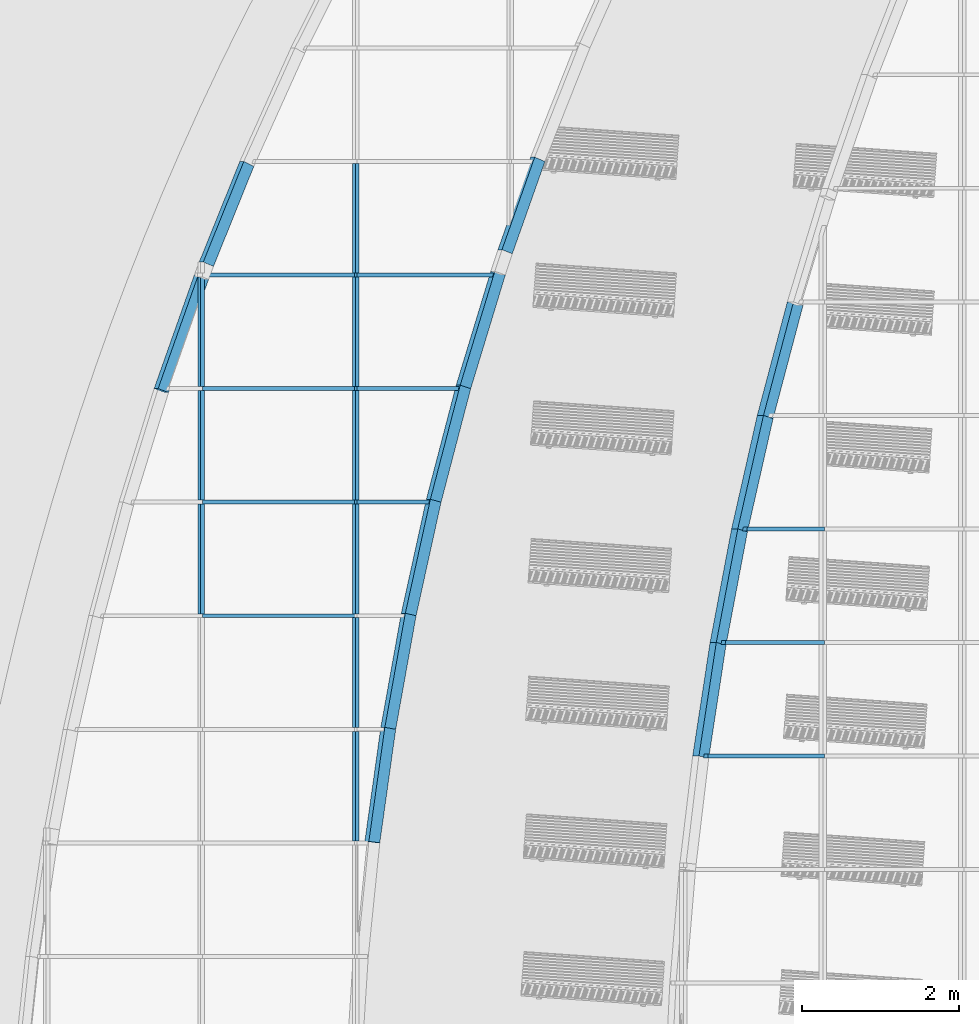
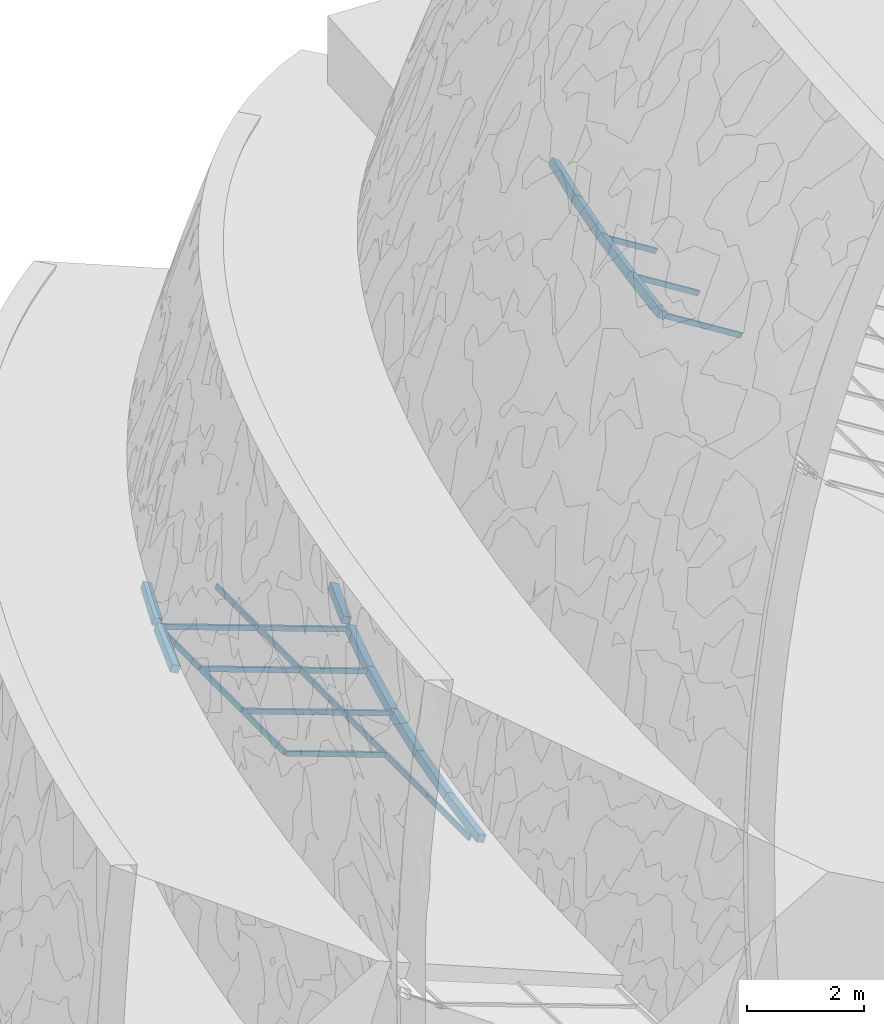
# One storey, part 12 of 82: 31 members, 2 elements without a shape of their own.
"""IFC2X3 building model written with IfcOpenShell, lengths in millimetres."""

import ifcopenshell
import ifcopenshell.guid

model = None  # the IFC model being written
_history = None  # IfcOwnerHistory: only IFC2X3 demands one
_inside = {}  # id of a spatial element -> (the spatial element, [elements in it])
_under = {}  # id of a project, library or spatial element -> (it, [spatial elements below it])
_declared = {}  # id of a project -> (the project, [libraries it declares])
_typed = {}  # id of a type object -> (the type object, [elements of that type])
_made_of = {}  # id of a material, layer set ... -> (it, [elements and type objects made of it])


def new_model(schema):
    """Start an empty IFC model of exactly this schema.

    Asked for "IFC4X3", IfcOpenShell would pick the latest addendum, in which some entities
    have other attributes; the version numbers below select the first issue.
    IFC2X3 requires an IfcOwnerHistory on every rooted entity: one is made here for all.
    """
    global model, _history
    if schema == "IFC4X3":
        model = ifcopenshell.file(schema_version=(4, 3, 0, 0))
    else:
        model = ifcopenshell.file(schema=schema)
    _inside.clear()
    _under.clear()
    _declared.clear()
    _typed.clear()
    _made_of.clear()
    _history = None
    if model.schema == "IFC2X3":
        org = make("IfcOrganization", Name="unknown")
        user = make(
            "IfcPersonAndOrganization",
            ThePerson=make("IfcPerson", FamilyName="unknown"),
            TheOrganization=org,
        )
        app = make(
            "IfcApplication",
            ApplicationDeveloper=org,
            Version="unknown",
            ApplicationFullName="unknown",
            ApplicationIdentifier="unknown",
        )
        _history = make(
            "IfcOwnerHistory",
            OwningUser=user,
            OwningApplication=app,
            ChangeAction="ADDED",
            CreationDate=0,
        )
    return model


def make(cls, **values):
    """One entity of the class cls with the attributes given. An attribute that is None is left unset."""
    return model.create_entity(
        cls, **{name: value for name, value in values.items() if value is not None}
    )


def entity(cls, *values):
    """Any entity or typed value of the class cls, its attributes in the order of the schema. None: left unset."""
    e = model.create_entity(cls)
    for i, value in enumerate(values):
        if value is not None:
            e[i] = value
    return e


def rooted(cls, **values):
    """An entity with a GlobalId (a new one), such as an element, a storey or a relation."""
    return make(cls, GlobalId=ifcopenshell.guid.new(), OwnerHistory=_history, **values)


def si_unit(unit_type, name, prefix=None):
    """IfcSIUnit, for example si_unit("LENGTHUNIT", "METRE", prefix="MILLI")."""
    return make("IfcSIUnit", UnitType=unit_type, Prefix=prefix, Name=name)


def converted_unit(unit_type, name, factor, base, dimensions=None, offset=None):
    """IfcConversionBasedUnit, such as the inch: factor (a typed value) times the base unit."""
    return make(
        "IfcConversionBasedUnit"
        if offset is None
        else "IfcConversionBasedUnitWithOffset",
        ConversionOffset=offset,
        Dimensions=None
        if dimensions is None
        else entity("IfcDimensionalExponents", *dimensions),
        UnitType=unit_type,
        Name=name,
        ConversionFactor=make(
            "IfcMeasureWithUnit", ValueComponent=factor, UnitComponent=base
        ),
    )


def derived_unit(unit_type, elements):
    """IfcDerivedUnit: a product of units, each with its exponent."""
    return make(
        "IfcDerivedUnit",
        Elements=[
            make("IfcDerivedUnitElement", Unit=unit, Exponent=power)
            for unit, power in elements
        ],
        UnitType=unit_type,
    )


def assignment(units):
    """IfcUnitAssignment: the units of a project."""
    return None if units is None else make("IfcUnitAssignment", Units=units)


def point(xyz):
    """IfcCartesianPoint."""
    return None if xyz is None else make("IfcCartesianPoint", Coordinates=xyz)


def direction(xyz):
    """IfcDirection."""
    return None if xyz is None else make("IfcDirection", DirectionRatios=xyz)


def frame(location, z_axis=None, x_axis=None):
    """IfcAxis2Placement3D, a coordinate frame: its origin and axes. An axis left out is left unset."""
    return make(
        "IfcAxis2Placement3D",
        Location=point(location),
        Axis=direction(z_axis),
        RefDirection=direction(x_axis),
    )


def frame_2d(location, x_axis=None):
    """IfcAxis2Placement2D, a coordinate frame in the plane: its origin and x axis."""
    return make(
        "IfcAxis2Placement2D", Location=point(location), RefDirection=direction(x_axis)
    )


def origin():
    """The frame at (0, 0, 0) with its axes left unset."""
    return frame((0.0, 0.0, 0.0))


def origin_2d_with_axis():
    """The frame at (0, 0) in the plane with the x axis (1, 0) written out."""
    return frame_2d((0.0, 0.0), x_axis=(1.0, 0.0))


def place(relative_to, where):
    """IfcLocalPlacement: puts the frame where relative to a parent placement (None: the world)."""
    return make(
        "IfcLocalPlacement", PlacementRelTo=relative_to, RelativePlacement=where
    )


def context(
    kind, dimensions, precision=None, world=None, true_north=None, identifier=None
):
    """IfcGeometricRepresentationContext, for example the 3D "Model" context."""
    return make(
        "IfcGeometricRepresentationContext",
        ContextIdentifier=identifier,
        ContextType=kind,
        CoordinateSpaceDimension=dimensions,
        Precision=precision,
        WorldCoordinateSystem=world,
        TrueNorth=true_north,
    )


def subcontext(parent, identifier, kind, view, scale=None):
    """IfcGeometricRepresentationSubContext, for example "Body" below "Model"."""
    return make(
        "IfcGeometricRepresentationSubContext",
        ContextIdentifier=identifier,
        ContextType=kind,
        ParentContext=parent,
        TargetScale=scale,
        TargetView=view,
    )


def project(units=None, contexts=None):
    """IfcProject with its units and contexts."""
    return rooted(
        "IfcProject",
        Name="project",
        RepresentationContexts=contexts,
        UnitsInContext=assignment(units),
    )


def spatial(cls, under=None, at=None, **own):
    """A site, building, storey or space (cls), placed at a placement, below another one or the project."""
    s = rooted(cls, ObjectPlacement=at, **own)
    if under is not None:
        _under.setdefault(under.id(), (under, []))[1].append(s)
    return s


def polyline(points):
    """IfcPolyline through the points."""
    return make("IfcPolyline", Points=[point(p) for p in points])


def profile(cls, at=None, kind="AREA", **sizes):
    """A parametric profile (cls). Its sizes go by their IFC names, for example OverallWidth=200.0."""
    return make(cls, ProfileType=kind, Position=at, **sizes)


def rectangle(**sizes):
    """IfcRectangleProfileDef."""
    return profile("IfcRectangleProfileDef", **sizes)


def extrude(swept, where, along, depth):
    """IfcExtrudedAreaSolid: the profile swept, set in the frame where, extruded along a direction by depth."""
    return make(
        "IfcExtrudedAreaSolid",
        SweptArea=swept,
        Position=where,
        ExtrudedDirection=direction(along),
        Depth=depth,
    )


def clip(a, b, op="DIFFERENCE"):
    """IfcBooleanClippingResult: the solid a cut by the half space b."""
    return make(
        "IfcBooleanClippingResult", Operator=op, FirstOperand=a, SecondOperand=b
    )


def halfspace(plane, agree):
    """IfcHalfSpaceSolid: all space on one side of the plane z = 0 of the frame plane."""
    return make(
        "IfcHalfSpaceSolid",
        BaseSurface=make("IfcPlane", Position=plane),
        AgreementFlag=agree,
    )


def bounded_halfspace(plane, agree, where, boundary):
    """IfcPolygonalBoundedHalfSpace: a half space limited to a polygon's prism."""
    return make(
        "IfcPolygonalBoundedHalfSpace",
        BaseSurface=make("IfcPlane", Position=plane),
        AgreementFlag=agree,
        Position=where,
        PolygonalBoundary=boundary,
    )


def shape(context_of_items, identifier, shape_type, items):
    """IfcShapeRepresentation: the items that make up one representation, for example the "Body"."""
    return make(
        "IfcShapeRepresentation",
        ContextOfItems=context_of_items,
        RepresentationIdentifier=identifier,
        RepresentationType=shape_type,
        Items=items,
    )


def source(mapping_origin, context_of_items, identifier, shape_type, items):
    """IfcRepresentationMap: a shape defined once, which mapped items show again and again."""
    return make(
        "IfcRepresentationMap",
        MappingOrigin=mapping_origin,
        MappedRepresentation=shape(context_of_items, identifier, shape_type, items),
    )


def transform(
    local_origin,
    x_axis=None,
    y_axis=None,
    z_axis=None,
    scale=None,
    scale2=None,
    scale3=None,
    uniform=True,
):
    """IfcCartesianTransformationOperator3D, or its non-uniform kind. x_axis, y_axis, z_axis: its Axis1, 2, 3."""
    if uniform:
        return make(
            "IfcCartesianTransformationOperator3D",
            Axis1=direction(x_axis),
            Axis2=direction(y_axis),
            LocalOrigin=point(local_origin),
            Scale=scale,
            Axis3=direction(z_axis),
        )
    return make(
        "IfcCartesianTransformationOperator3DnonUniform",
        Axis1=direction(x_axis),
        Axis2=direction(y_axis),
        LocalOrigin=point(local_origin),
        Scale=scale,
        Axis3=direction(z_axis),
        Scale2=scale2,
        Scale3=scale3,
    )


def mapped(mapping_source, mapping_target):
    """IfcMappedItem: shows the shape of a source again, moved by a transform."""
    return make(
        "IfcMappedItem", MappingSource=mapping_source, MappingTarget=mapping_target
    )


def material(Name=None, Category=None):
    """IfcMaterial."""
    return make("IfcMaterial", Name=Name, Category=Category)


def made_of(thing, what):
    """Note that an element or type object is made of a material, layer set ...; save() writes the relation."""
    if what is not None:
        _made_of.setdefault(what.id(), (what, []))[1].append(thing)
    return thing


def type_object(cls, material=None, **own):
    """A type object (cls), such as IfcWallType, which elements share."""
    return made_of(rooted(cls, **own), material)


def type_shapes(of_type, sources):
    """Give a type object the sources (RepresentationMaps) that its elements show as mapped items."""
    of_type.RepresentationMaps = sources


def element(
    cls,
    number,
    at=None,
    inside=None,
    cuts=None,
    type_object=None,
    material=None,
    context=None,
    identifier="Body",
    shape_type=None,
    held_by="IfcProductDefinitionShape",
    body=None,
    shapes=None,
    **own,
):
    """One element of the class cls, such as IfcWall. Its Tag is "e" and its number.

    at: its placement. inside: the storey or other place that contains it. cuts: it is an
    opening in that element (IfcRelVoidsElement). A single representation is given by context,
    identifier, shape_type and body (its items); several are given by shapes. held_by: the class
    of the entity that holds the representations. save() writes the other relations.
    """
    e = rooted(cls, Tag="e%d" % number, ObjectPlacement=at, **own)
    if body is not None:
        shapes = [shape(context, identifier, shape_type, body)]
    if shapes is not None:
        e.Representation = make(held_by, Representations=shapes)
    if inside is not None:
        _inside.setdefault(inside.id(), (inside, []))[1].append(e)
    if cuts is not None:
        rooted(
            "IfcRelVoidsElement", RelatingBuildingElement=cuts, RelatedOpeningElement=e
        )
    if type_object is not None:
        _typed.setdefault(type_object.id(), (type_object, []))[1].append(e)
    return made_of(e, material)


def aggregate(whole, parts):
    """IfcRelAggregates: a whole, such as a stair, and the parts it consists of."""
    return rooted("IfcRelAggregates", RelatingObject=whole, RelatedObjects=parts)


def save(model, path):
    """Write the relations noted so far, then the file.

    IfcRelAggregates (storeys below a building ...), IfcRelContainedInSpatialStructure (elements
    in a storey), IfcRelDefinesByType, IfcRelAssociatesMaterial and IfcRelDeclares: one each for
    every whole, place, type object, material and project.
    """
    for whole, parts in _under.values():
        aggregate(whole, parts)
    for where, things in _inside.values():
        rooted(
            "IfcRelContainedInSpatialStructure",
            RelatedElements=things,
            RelatingStructure=where,
        )
    for kind, things in _typed.values():
        rooted("IfcRelDefinesByType", RelatedObjects=things, RelatingType=kind)
    for what, things in _made_of.values():
        rooted("IfcRelAssociatesMaterial", RelatedObjects=things, RelatingMaterial=what)
    for by, libraries in _declared.values():
        rooted("IfcRelDeclares", RelatingContext=by, RelatedDefinitions=libraries)
    model.write(path)


model = new_model("IFC2X3")

# Units and contexts
model_context = context("Model", 3, precision=0.01, world=origin(), true_north=direction((6.12303176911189e-17, 1.0)))
body_context = subcontext(model_context, "Body", "Model", "MODEL_VIEW")
ifc_project = project(units=[si_unit("LENGTHUNIT", "METRE", prefix="MILLI"), si_unit("AREAUNIT", "SQUARE_METRE"), si_unit("VOLUMEUNIT", "CUBIC_METRE"), converted_unit("PLANEANGLEUNIT", "DEGREE", entity("IfcRatioMeasure", 0.0174532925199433), si_unit("PLANEANGLEUNIT", "RADIAN"), dimensions=[0, 0, 0, 0, 0, 0, 0]), si_unit("MASSUNIT", "GRAM", prefix="KILO"), derived_unit("MASSDENSITYUNIT", [(si_unit("MASSUNIT", "GRAM", prefix="KILO"), 1), (si_unit("LENGTHUNIT", "METRE"), -3)]), si_unit("TIMEUNIT", "SECOND"), si_unit("FREQUENCYUNIT", "HERTZ"), si_unit("THERMODYNAMICTEMPERATUREUNIT", "DEGREE_CELSIUS"), derived_unit("THERMALTRANSMITTANCEUNIT", [(si_unit("MASSUNIT", "GRAM", prefix="KILO"), 1), (si_unit("THERMODYNAMICTEMPERATUREUNIT", "KELVIN"), -1), (si_unit("TIMEUNIT", "SECOND"), -3)]), derived_unit("VOLUMETRICFLOWRATEUNIT", [(si_unit("LENGTHUNIT", "METRE"), 3), (si_unit("TIMEUNIT", "SECOND"), -1)]), si_unit("ELECTRICCURRENTUNIT", "AMPERE"), si_unit("ELECTRICVOLTAGEUNIT", "VOLT"), si_unit("POWERUNIT", "WATT"), si_unit("FORCEUNIT", "NEWTON", prefix="KILO"), si_unit("ILLUMINANCEUNIT", "LUX"), si_unit("LUMINOUSFLUXUNIT", "LUMEN"), si_unit("LUMINOUSINTENSITYUNIT", "CANDELA"), derived_unit("USERDEFINED", [(si_unit("MASSUNIT", "GRAM", prefix="KILO"), -1), (si_unit("LENGTHUNIT", "METRE"), -2), (si_unit("TIMEUNIT", "SECOND"), 3), (si_unit("LUMINOUSFLUXUNIT", "LUMEN"), 1)]), derived_unit("LINEARVELOCITYUNIT", [(si_unit("LENGTHUNIT", "METRE"), 1), (si_unit("TIMEUNIT", "SECOND"), -1)]), si_unit("PRESSUREUNIT", "PASCAL"), derived_unit("USERDEFINED", [(si_unit("LENGTHUNIT", "METRE"), -2), (si_unit("MASSUNIT", "GRAM", prefix="KILO"), 1), (si_unit("TIMEUNIT", "SECOND"), -2)])], contexts=[model_context])

# Site, building, storey
site_placement = place(None, origin())
site = spatial("IfcSite", under=ifc_project, at=site_placement, Name="表面", CompositionType="ELEMENT")
building_placement = place(site_placement, origin())
building = spatial("IfcBuilding", under=site, at=building_placement, CompositionType="ELEMENT")
storey_placement = place(building_placement, origin())
storey = spatial("IfcBuildingStorey", under=building, at=storey_placement, Name="1F", CompositionType="ELEMENT", Elevation=0.0)

# Curtain wall, members
curtain_wall_type = type_object("IfcCurtainWallType", Name="幕墙系统:1450 x 2100mm", PredefinedType="NOTDEFINED")
curtain_wall_1_placement = place(storey_placement, origin())
curtain_wall_1 = element("IfcCurtainWall", 1, at=curtain_wall_1_placement, inside=storey, type_object=curtain_wall_type, Name="幕墙系统:1450 x 2100mm", ObjectType="幕墙系统:1450 x 2100mm")
ifc_material_1 = material(Name="金属 - 铝")
member_type_1 = type_object("IfcMemberType", Name="50 x 100mm", PredefinedType="MEMBER")
shared_shape_1 = source(origin(), body_context, "Body", "SweptSolid", [
    extrude(rectangle(XDim=100.0, YDim=50.0, at=origin_2d_with_axis()), frame((0.0, 0.0, -1400.0), z_axis=(0.0, 0.0, 1.0), x_axis=(0.0, -1.0, 0.0)), (0.0, 0.0, 1.0), 1400.0),
])
type_shapes(member_type_1, [shared_shape_1])
placement = place(building_placement, frame((0.0, 0.0, 9000.0)))
member_1_placement = place(placement, frame((-34783.270916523, -4371.8767198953, 980.343533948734), z_axis=(0.0, 1.0, 0.0), x_axis=(-0.93969262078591, 0.0, 0.342020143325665)))
member_1 = element("IfcMember", 2, at=member_1_placement, type_object=member_type_1, material=ifc_material_1, Name="矩形竖梃:50 x 100mm", ObjectType="50 x 100mm", context=body_context, shape_type="MappedRepresentation", body=[
    mapped(shared_shape_1, transform((0.0, 0.0, 0.0), scale=1.0)),
])
member_2_placement = place(placement, frame((-34783.270916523, -5821.87671989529, 980.343533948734), z_axis=(0.0, 1.0, 0.0), x_axis=(-0.93969262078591, 0.0, 0.342020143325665)))
member_2 = element("IfcMember", 3, at=member_2_placement, type_object=member_type_1, material=ifc_material_1, Name="矩形竖梃:50 x 100mm", ObjectType="50 x 100mm", context=body_context, shape_type="MappedRepresentation", body=[
    mapped(shared_shape_1, transform((0.0, 0.0, 0.0), scale=1.0)),
])
member_3_placement = place(placement, frame((-34783.270916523, -7271.87671989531, 980.343533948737), z_axis=(0.0, 1.0, 0.0), x_axis=(-0.93969262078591, 0.0, 0.342020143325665)))
member_3 = element("IfcMember", 4, at=member_3_placement, type_object=member_type_1, material=ifc_material_1, Name="矩形竖梃:50 x 100mm", ObjectType="50 x 100mm", context=body_context, shape_type="MappedRepresentation", body=[
    mapped(shared_shape_1, transform((0.0, 0.0, 0.0), scale=1.0)),
])
member_4_placement = place(placement, frame((-34783.270916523, -8721.8767198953, 980.343533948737), z_axis=(0.0, 1.0, 0.0), x_axis=(-0.93969262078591, 0.0, 0.342020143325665)))
member_4 = element("IfcMember", 5, at=member_4_placement, type_object=member_type_1, material=ifc_material_1, Name="矩形竖梃:50 x 100mm", ObjectType="50 x 100mm", context=body_context, shape_type="MappedRepresentation", body=[
    mapped(shared_shape_1, transform((0.0, 0.0, 0.0), scale=1.0)),
])
member_5_placement = place(placement, frame((-34783.270916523, -10171.8767198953, 980.343533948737), z_axis=(0.0, 1.0, 0.0), x_axis=(-0.93969262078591, 0.0, 0.342020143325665)))
member_5 = element("IfcMember", 6, at=member_5_placement, type_object=member_type_1, material=ifc_material_1, Name="矩形竖梃:50 x 100mm", ObjectType="50 x 100mm", context=body_context, shape_type="MappedRepresentation", body=[
    mapped(shared_shape_1, transform((0.0, 0.0, 0.0), scale=1.0)),
])
member_6_placement = place(placement, frame((-34783.270916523, -11621.8767198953, 980.343533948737), z_axis=(0.0, 1.0, 0.0), x_axis=(-0.93969262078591, 0.0, 0.342020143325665)))
member_6 = element("IfcMember", 7, at=member_6_placement, type_object=member_type_1, material=ifc_material_1, Name="矩形竖梃:50 x 100mm", ObjectType="50 x 100mm", context=body_context, shape_type="MappedRepresentation", body=[
    mapped(shared_shape_1, transform((0.0, 0.0, 0.0), scale=1.0)),
])
member_7_placement = place(placement, frame((-36756.6254201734, -5821.87671989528, 1698.58583493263), z_axis=(0.0, 1.0, 0.0), x_axis=(-0.93969262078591, 0.0, 0.342020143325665)))
member_7 = element("IfcMember", 8, at=member_7_placement, type_object=member_type_1, material=ifc_material_1, Name="矩形竖梃:50 x 100mm", ObjectType="50 x 100mm", context=body_context, shape_type="MappedRepresentation", body=[
    mapped(shared_shape_1, transform((0.0, 0.0, 0.0), scale=1.0)),
])
member_8_placement = place(placement, frame((-36756.6254201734, -7271.87671989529, 1698.58583493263), z_axis=(0.0, 1.0, 0.0), x_axis=(-0.93969262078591, 0.0, 0.342020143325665)))
member_8 = element("IfcMember", 9, at=member_8_placement, type_object=member_type_1, material=ifc_material_1, Name="矩形竖梃:50 x 100mm", ObjectType="50 x 100mm", context=body_context, shape_type="MappedRepresentation", body=[
    mapped(shared_shape_1, transform((0.0, 0.0, 0.0), scale=1.0)),
])
member_9_placement = place(placement, frame((-36756.6254201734, -8721.87671989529, 1698.58583493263), z_axis=(0.0, 1.0, 0.0), x_axis=(-0.93969262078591, 0.0, 0.342020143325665)))
member_9 = element("IfcMember", 10, at=member_9_placement, type_object=member_type_1, material=ifc_material_1, Name="矩形竖梃:50 x 100mm", ObjectType="50 x 100mm", context=body_context, shape_type="MappedRepresentation", body=[
    mapped(shared_shape_1, transform((0.0, 0.0, 0.0), scale=1.0)),
])
member_type_2 = type_object("IfcMemberType", Name="50 x 100mm", PredefinedType="MEMBER")
shared_shape_2 = source(origin(), body_context, "Body", "SweptSolid", [
    extrude(rectangle(XDim=100.0, YDim=50.0, at=origin_2d_with_axis()), frame((0.0, 0.0, -2100.0), z_axis=(0.0, 0.0, 1.0), x_axis=(0.0, -1.0, 0.0)), (0.0, 0.0, 1.0), 2100.0),
])
type_shapes(member_type_2, [shared_shape_2])
member_10_placement = place(placement, frame((-36756.6254201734, -5796.87671989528, 1698.58583493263), z_axis=(-0.939692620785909, 0.0, 0.342020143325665), x_axis=(0.0, -1.0, 0.0)))
member_10 = element("IfcMember", 11, at=member_10_placement, type_object=member_type_2, material=ifc_material_1, Name="矩形竖梃:50 x 100mm", ObjectType="50 x 100mm", context=body_context, shape_type="MappedRepresentation", body=[
    mapped(shared_shape_2, transform((0.0, 0.0, 0.0), scale=1.0)),
])
member_11_placement = place(placement, frame((-36756.6254201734, -7246.8767198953, 1698.58583493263), z_axis=(-0.939692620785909, 0.0, 0.342020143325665), x_axis=(0.0, -1.0, 0.0)))
member_11 = element("IfcMember", 12, at=member_11_placement, type_object=member_type_2, material=ifc_material_1, Name="矩形竖梃:50 x 100mm", ObjectType="50 x 100mm", context=body_context, shape_type="MappedRepresentation", body=[
    mapped(shared_shape_2, transform((0.0, 0.0, 0.0), scale=1.0)),
])
member_12_placement = place(placement, frame((-36756.6254201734, -8696.8767198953, 1698.58583493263), z_axis=(-0.93969262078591, 0.0, 0.342020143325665), x_axis=(0.0, -1.0, 0.0)))
member_12 = element("IfcMember", 13, at=member_12_placement, type_object=member_type_2, material=ifc_material_1, Name="矩形竖梃:50 x 100mm", ObjectType="50 x 100mm", context=body_context, shape_type="MappedRepresentation", body=[
    mapped(shared_shape_2, transform((0.0, 0.0, 0.0), scale=1.0)),
])
member_13_placement = place(placement, frame((-36756.6254201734, -10146.8767198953, 1698.58583493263), z_axis=(-0.939692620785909, 0.0, 0.342020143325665), x_axis=(0.0, -1.0, 0.0)))
member_13 = element("IfcMember", 14, at=member_13_placement, type_object=member_type_2, material=ifc_material_1, Name="矩形竖梃:50 x 100mm", ObjectType="50 x 100mm", context=body_context, shape_type="MappedRepresentation", body=[
    mapped(shared_shape_2, transform((0.0, 0.0, 0.0), scale=1.0)),
])

curtain_wall_2_placement = place(storey_placement, origin())
curtain_wall_2 = element("IfcCurtainWall", 15, at=curtain_wall_2_placement, inside=storey, type_object=curtain_wall_type, Name="幕墙系统:1450 x 2100mm", ObjectType="幕墙系统:1450 x 2100mm")
ifc_material_2 = material(Name="木质 - 木材")
member_type_3 = type_object("IfcMemberType", Name="200 x 150mm", PredefinedType="MEMBER")
shared_shape_3 = source(origin(), body_context, "Body", "Clipping", [
    clip(clip(extrude(rectangle(XDim=150.0, YDim=150.0, at=frame_2d((0.0, -3.5527136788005e-14), x_axis=(1.0, 0.0))), frame((-75.0, 0.0, -1518.93523672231), z_axis=(0.0, 0.0, 1.0), x_axis=(0.0, -1.0, 0.0)), (0.0, 0.0, 1.0), 1518.93523672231), halfspace(frame((0.0, -304.799999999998, -1518.93523672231), z_axis=(-0.0208260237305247, 0.0, -0.999783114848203), x_axis=(-0.999783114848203, 0.0, 0.0208260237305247)), False)), halfspace(frame((0.0, -304.8, 0.0), z_axis=(-0.0203865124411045, 0.0, 0.999792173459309), x_axis=(-0.999792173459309, 0.0, -0.0203865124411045)), False)),
])
type_shapes(member_type_3, [shared_shape_3])
member_14_placement = place(placement, frame((-29233.6885868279, -6138.90315351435, 8963.43297238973), z_axis=(0.252581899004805, 0.954616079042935, -0.157830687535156), x_axis=(-0.809560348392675, 0.29783912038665, 0.505869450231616)))
member_14 = element("IfcMember", 16, at=member_14_placement, type_object=member_type_3, material=ifc_material_2, Name="矩形竖梃:200 x 150mm", ObjectType="200 x 150mm", context=body_context, shape_type="MappedRepresentation", body=[
    mapped(shared_shape_3, transform((0.0, 0.0, 0.0), scale=1.0)),
])
member_type_4 = type_object("IfcMemberType", Name="200 x 150mm", PredefinedType="MEMBER")
shared_shape_4 = source(origin(), body_context, "Body", "Clipping", [
    clip(clip(extrude(rectangle(XDim=150.0, YDim=150.0, at=frame_2d((7.105427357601e-15, 1.4210854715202e-14), x_axis=(1.0, 0.0))), frame((-75.0, 0.0, -1500.73859228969), z_axis=(0.0, 0.0, 1.0), x_axis=(0.0, -1.0, 0.0)), (0.0, 0.0, 1.0), 1500.73859228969), halfspace(frame((0.0, -304.800000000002, -1500.73859228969), z_axis=(-0.0205966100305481, 0.0, -0.999787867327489), x_axis=(-0.999787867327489, 0.0, 0.0205966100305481)), False)), halfspace(frame((0.0, -304.8, 0.0), z_axis=(-0.0208260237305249, 0.0, 0.999783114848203), x_axis=(-0.999783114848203, 0.0, -0.0208260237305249)), False)),
])
type_shapes(member_type_4, [shared_shape_4])
member_15_placement = place(placement, frame((-29617.3441333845, -7588.90315351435, 9203.16756512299), z_axis=(0.218650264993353, 0.966190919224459, -0.136627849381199), x_axis=(-0.819376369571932, 0.257827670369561, 0.512003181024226)))
member_15 = element("IfcMember", 17, at=member_15_placement, type_object=member_type_4, material=ifc_material_2, Name="矩形竖梃:200 x 150mm", ObjectType="200 x 150mm", context=body_context, shape_type="MappedRepresentation", body=[
    mapped(shared_shape_4, transform((0.0, 0.0, 0.0), scale=1.0)),
])
member_type_5 = type_object("IfcMemberType", Name="200 x 150mm", PredefinedType="MEMBER")
shared_shape_5 = source(origin(), body_context, "Body", "Clipping", [
    clip(clip(extrude(rectangle(XDim=150.0, YDim=150.0, at=frame_2d((2.8421709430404e-14, -3.5527136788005e-14), x_axis=(1.0, 0.0))), frame((-75.0, 0.0, -1485.67147350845), z_axis=(0.0, 0.0, 1.0), x_axis=(0.0, -1.0, 0.0)), (0.0, 0.0, 1.0), 1485.67147350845), halfspace(frame((0.0, -304.8, -1485.67147350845), z_axis=(-0.020408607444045, 0.0, -0.999791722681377), x_axis=(-0.999791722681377, 0.0, 0.020408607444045)), False)), halfspace(frame((0.0, -304.8, 0.0), z_axis=(-0.0205966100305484, 0.0, 0.999787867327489), x_axis=(-0.999787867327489, 0.0, -0.0205966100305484)), False)),
])
type_shapes(member_type_5, [shared_shape_5])
member_16_placement = place(placement, frame((-29945.4810242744, -9038.90315351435, 9408.2102514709), z_axis=(0.184719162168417, 0.975989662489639, -0.11542534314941), x_axis=(-0.827686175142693, 0.217816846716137, 0.517195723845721)))
member_16 = element("IfcMember", 18, at=member_16_placement, type_object=member_type_5, material=ifc_material_2, Name="矩形竖梃:200 x 150mm", ObjectType="200 x 150mm", context=body_context, shape_type="MappedRepresentation", body=[
    mapped(shared_shape_5, transform((0.0, 0.0, 0.0), scale=1.0)),
])
member_type_6 = type_object("IfcMemberType", Name="200 x 150mm", PredefinedType="MEMBER")
shared_shape_6 = source(origin(), body_context, "Body", "Clipping", [
    clip(clip(extrude(rectangle(XDim=150.0, YDim=150.0, at=frame_2d((0.0, -6.3948846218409e-14), x_axis=(1.0, 0.0))), frame((-75.0, 0.0, -1473.47920382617), z_axis=(0.0, 0.0, 1.0), x_axis=(0.0, -1.0, 0.0)), (0.0, 0.0, 1.0), 1473.47920382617), halfspace(frame((0.0, -304.8, -1473.47920382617), z_axis=(-0.0196664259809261, 0.0, -0.999806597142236), x_axis=(-0.999806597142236, 0.0, 0.0196664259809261)), False)), halfspace(frame((0.0, -304.8, 0.0), z_axis=(-0.0204086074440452, 0.0, 0.999791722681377), x_axis=(-0.999791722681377, 0.0, -0.0204086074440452)), False)),
])
type_shapes(member_type_6, [shared_shape_6])
member_17_placement = place(placement, frame((-30219.9130141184, -10488.9031535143, 9579.6943911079), z_axis=(0.150788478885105, 0.984065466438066, -0.094223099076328), x_axis=(-0.834534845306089, 0.177806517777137, 0.521475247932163)))
member_17 = element("IfcMember", 19, at=member_17_placement, type_object=member_type_6, material=ifc_material_2, Name="矩形竖梃:200 x 150mm", ObjectType="200 x 150mm", context=body_context, shape_type="MappedRepresentation", body=[
    mapped(shared_shape_6, transform((0.0, 0.0, 0.0), scale=1.0)),
])
member_type_7 = type_object("IfcMemberType", Name="50 x 100mm", PredefinedType="MEMBER")
shared_shape_7 = source(origin(), body_context, "Body", "Clipping", [
    clip(extrude(rectangle(XDim=100.0, YDim=50.0, at=origin_2d_with_axis()), frame((0.0, 0.0, -1322.89242404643), z_axis=(0.0, 0.0, 1.0), x_axis=(0.0, -1.0, 0.0)), (0.0, 0.0, 1.0), 1174.31484441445), halfspace(frame((-1411.32584944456, 75.0, -531.860572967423), z_axis=(-0.257827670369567, 0.0, 0.966190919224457), x_axis=(0.966190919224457, 0.0, 0.257827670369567)), False)),
])
type_shapes(member_type_7, [shared_shape_7])
member_18_placement = place(placement, frame((-29945.4810242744, -9038.90315351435, 9408.2102514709), z_axis=(-0.848048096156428, 0.0, 0.529919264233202), x_axis=(0.0, -1.0, 0.0)))
member_18 = element("IfcMember", 20, at=member_18_placement, type_object=member_type_7, material=ifc_material_1, Name="矩形竖梃:50 x 100mm", ObjectType="50 x 100mm", context=body_context, shape_type="MappedRepresentation", body=[
    mapped(shared_shape_7, transform((0.0, 0.0, 0.0), scale=1.0)),
])
member_type_8 = type_object("IfcMemberType", Name="50 x 100mm", PredefinedType="MEMBER")
shared_shape_8 = source(origin(), body_context, "Body", "Clipping", [
    clip(extrude(rectangle(XDim=100.0, YDim=50.0, at=origin_2d_with_axis()), frame((0.0, 0.0, -1646.49669966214), z_axis=(0.0, 0.0, 1.0), x_axis=(0.0, -1.0, 0.0)), (0.0, 0.0, 1.0), 1498.38593129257), halfspace(frame((-1417.32747299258, 75.0, -470.002724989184), z_axis=(-0.217816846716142, 0.0, 0.975989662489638), x_axis=(0.975989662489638, 0.0, 0.217816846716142)), False)),
])
type_shapes(member_type_8, [shared_shape_8])
member_19_placement = place(placement, frame((-30219.9130141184, -10488.9031535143, 9579.6943911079), z_axis=(-0.848048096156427, 0.0, 0.529919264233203), x_axis=(0.0, -1.0, 0.0)))
member_19 = element("IfcMember", 21, at=member_19_placement, type_object=member_type_8, material=ifc_material_1, Name="矩形竖梃:50 x 100mm", ObjectType="50 x 100mm", context=body_context, shape_type="MappedRepresentation", body=[
    mapped(shared_shape_8, transform((0.0, 0.0, 0.0), scale=1.0)),
])
member_type_9 = type_object("IfcMemberType", Name="50 x 100mm", PredefinedType="MEMBER")
shared_shape_9 = source(origin(), body_context, "Body", "Clipping", [
    clip(clip(extrude(rectangle(XDim=100.0, YDim=50.0, at=origin_2d_with_axis()), frame((0.0, 0.0, -1908.4909059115), z_axis=(0.0, 0.0, 1.0), x_axis=(0.0, -1.0, 0.0)), (0.0, 0.0, 1.0), 1760.52942676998), bounded_halfspace(frame((-1423.32902233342, 75.0, -409.604026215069), z_axis=(-0.177806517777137, 0.0, 0.984065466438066), x_axis=(0.984065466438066, 0.0, 0.177806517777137)), False, frame((0.0, 0.0, -1908.4909059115), z_axis=(0.0, 0.0, 1.0), x_axis=(0.0, -1.0, 0.0)), polyline([(-50.0, 23.767458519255), (-50.0, -25.0), (50.0, -25.0), (50.0, 23.7674585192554), (-50.0, 23.767458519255)]))), bounded_halfspace(frame((23.7674585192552, 75.0, -148.134444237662), z_axis=(-0.13897036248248, 0.0, 0.990296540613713), x_axis=(0.990296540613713, 0.0, 0.13897036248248)), False, frame((0.0, 0.0, -1908.4909059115), z_axis=(0.0, 0.0, 1.0), x_axis=(0.0, -1.0, 0.0)), polyline([(-50.0, 25.0), (-50.0, 23.7674585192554), (50.0, 23.7674585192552), (50.0, 25.0), (-50.0, 25.0)]))),
])
type_shapes(member_type_9, [shared_shape_9])
member_20_placement = place(placement, frame((-30442.0967019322, -11938.9031535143, 9718.53016811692), z_axis=(-0.848048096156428, 0.0, 0.529919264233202), x_axis=(0.0, -1.0, 0.0)))
member_20 = element("IfcMember", 22, at=member_20_placement, type_object=member_type_9, material=ifc_material_1, Name="矩形竖梃:50 x 100mm", ObjectType="50 x 100mm", context=body_context, shape_type="MappedRepresentation", body=[
    mapped(shared_shape_9, transform((0.0, 0.0, 0.0), scale=1.0)),
])
aggregate(curtain_wall_2, [member_14, member_15, member_16, member_17, member_18, member_19, member_20])

# Member
member_type_10 = type_object("IfcMemberType", Name="200 x 150mm", PredefinedType="MEMBER")
shared_shape_10 = source(origin(), body_context, "Body", "Clipping", [
    clip(clip(extrude(rectangle(XDim=150.0, YDim=150.0, at=frame_2d((0.0, 4.9737991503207e-14), x_axis=(1.0, 0.0))), frame((-75.0, 0.0, -1525.98448813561), z_axis=(0.0, 0.0, 1.0), x_axis=(0.0, -1.0, 0.0)), (0.0, 0.0, 1.0), 1529.1264921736), halfspace(frame((0.0, 304.800000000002, -1524.10495337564), z_axis=(0.0125292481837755, 0.0, -0.999921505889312), x_axis=(0.999921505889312, 0.0, 0.0125292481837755)), False)), halfspace(frame((0.0, 304.800000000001, 0.0), z_axis=(0.0209420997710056, 0.0, 0.999780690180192), x_axis=(0.999780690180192, 0.0, -0.0209420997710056)), False)),
])
type_shapes(member_type_10, [shared_shape_10])
member_21_placement = place(placement, frame((-33340.883278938, -7246.8767198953, 455.357367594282), z_axis=(-0.289449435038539, -0.951378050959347, 0.105350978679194), x_axis=(0.89400293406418, -0.308025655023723, -0.325390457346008)))
member_21 = element("IfcMember", 23, at=member_21_placement, type_object=member_type_10, material=ifc_material_2, Name="矩形竖梃:200 x 150mm", ObjectType="200 x 150mm", context=body_context, shape_type="MappedRepresentation", body=[
    mapped(shared_shape_10, transform((0.0, 0.0, 0.0), scale=1.0)),
])

member_type_11 = type_object("IfcMemberType", Name="200 x 150mm", PredefinedType="MEMBER")
shared_shape_11 = source(origin(), body_context, "Body", "Clipping", [
    clip(clip(extrude(rectangle(XDim=150.0, YDim=150.0, at=frame_2d((-1.4210854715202e-14, 4.9737991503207e-14), x_axis=(1.0, 0.0))), frame((-75.0, 0.0, -1508.16233428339), z_axis=(0.0, 0.0, 1.0), x_axis=(0.0, -1.0, 0.0)), (0.0, 0.0, 1.0), 1511.26806117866), halfspace(frame((0.0, 304.800000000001, -1505.0203302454), z_axis=(0.0209420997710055, 0.0, -0.999780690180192), x_axis=(0.999780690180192, 0.0, 0.0209420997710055)), False)), halfspace(frame((0.0, 304.800000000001, 0.0), z_axis=(0.0207004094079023, 0.0, 0.999785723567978), x_axis=(0.999785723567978, 0.0, -0.0207004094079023)), False)),
])
type_shapes(member_type_11, [shared_shape_11])
member_22_placement = place(placement, frame((-33719.7859348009, -8696.8767198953, 593.266656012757), z_axis=(-0.251759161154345, -0.963442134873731, 0.0916328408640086), x_axis=(0.905339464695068, -0.267916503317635, -0.329516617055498)))
member_22 = element("IfcMember", 24, at=member_22_placement, type_object=member_type_11, material=ifc_material_2, Name="矩形竖梃:200 x 150mm", ObjectType="200 x 150mm", context=body_context, shape_type="MappedRepresentation", body=[
    mapped(shared_shape_11, transform((0.0, 0.0, 0.0), scale=1.0)),
])

member_type_12 = type_object("IfcMemberType", Name="200 x 150mm", PredefinedType="MEMBER")
shared_shape_12 = source(origin(), body_context, "Body", "Clipping", [
    clip(clip(extrude(rectangle(XDim=150.0, YDim=150.0, at=origin_2d_with_axis()), frame((-75.0, 0.0, -1492.26153393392), z_axis=(0.0, 0.0, 1.0), x_axis=(0.0, -1.0, 0.0)), (0.0, 0.0, 1.0), 1495.33740469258), halfspace(frame((0.0, 304.800000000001, -1489.15580703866), z_axis=(0.020700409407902, 0.0, -0.999785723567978), x_axis=(0.999785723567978, 0.0, 0.020700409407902)), False)), halfspace(frame((0.0, 304.800000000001, 0.0), z_axis=(0.0205014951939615, 0.0, 0.999789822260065), x_axis=(0.999789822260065, 0.0, -0.0205014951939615)), False)),
])
type_shapes(member_type_12, [shared_shape_12])
member_23_placement = place(placement, frame((-34038.5689769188, -10146.8767198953, 709.294194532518), z_axis=(-0.214069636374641, -0.97370603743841, 0.0779149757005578), x_axis=(0.914984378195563, -0.227808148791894, -0.333027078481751)))
member_23 = element("IfcMember", 25, at=member_23_placement, type_object=member_type_12, material=ifc_material_2, Name="矩形竖梃:200 x 150mm", ObjectType="200 x 150mm", context=body_context, shape_type="MappedRepresentation", body=[
    mapped(shared_shape_12, transform((0.0, 0.0, 0.0), scale=1.0)),
])

member_type_13 = type_object("IfcMemberType", Name="200 x 150mm", PredefinedType="MEMBER")
shared_shape_13 = source(origin(), body_context, "Body", "Clipping", [
    clip(clip(extrude(rectangle(XDim=150.0, YDim=150.0, at=origin_2d_with_axis()), frame((-75.0, 0.0, -1479.31398036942), z_axis=(0.0, 0.0, 1.0), x_axis=(0.0, -1.0, 0.0)), (0.0, 0.0, 1.0), 1482.36586759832), halfspace(frame((0.0, 304.799999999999, -1476.23810961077), z_axis=(0.0205014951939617, 0.0, -0.999789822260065), x_axis=(0.999789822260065, 0.0, 0.0205014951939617)), False)), halfspace(frame((0.0, 304.799999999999, 0.0), z_axis=(0.0203417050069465, 0.0, 0.999793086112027), x_axis=(0.999793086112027, 0.0, -0.0203417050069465)), False)),
])
type_shapes(member_type_13, [shared_shape_13])
member_24_placement = place(placement, frame((-34298.9485547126, -11596.8767198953, 804.064610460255), z_axis=(-0.176380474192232, -0.982226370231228, 0.0641972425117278), x_axis=(0.922990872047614, -0.187700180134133, -0.335941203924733)))
member_24 = element("IfcMember", 26, at=member_24_placement, type_object=member_type_13, material=ifc_material_2, Name="矩形竖梃:200 x 150mm", ObjectType="200 x 150mm", context=body_context, shape_type="MappedRepresentation", body=[
    mapped(shared_shape_13, transform((0.0, 0.0, 0.0), scale=1.0)),
])

member_type_14 = type_object("IfcMemberType", Name="200 x 150mm", PredefinedType="MEMBER")
shared_shape_14 = source(origin(), body_context, "Body", "Clipping", [
    clip(clip(extrude(rectangle(XDim=150.0, YDim=150.0, at=frame_2d((-2.8421709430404e-14, 0.0), x_axis=(1.0, 0.0))), frame((-75.0, 0.0, -1469.10782017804), z_axis=(0.0, 0.0, 1.0), x_axis=(0.0, -1.0, 0.0)), (0.0, 0.0, 1.0), 1472.14126297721), halfspace(frame((0.0, 304.8, -1466.05593294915), z_axis=(0.0203417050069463, 0.0, -0.999793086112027), x_axis=(0.999793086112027, 0.0, 0.0203417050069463)), False)), halfspace(frame((0.0, 304.8, 0.0), z_axis=(0.0202188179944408, 0.0, 0.999795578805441), x_axis=(0.999795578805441, 0.0, -0.0202188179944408)), False)),
])
type_shapes(member_type_14, [shared_shape_14])
member_25_placement = place(placement, frame((-34502.2785798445, -13046.8767198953, 878.070687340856), z_axis=(-0.138691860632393, -0.9890482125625, 0.0504797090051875), x_axis=(0.929401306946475, -0.14759279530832, -0.338274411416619)))
member_25 = element("IfcMember", 27, at=member_25_placement, type_object=member_type_14, material=ifc_material_2, Name="矩形竖梃:200 x 150mm", ObjectType="200 x 150mm", context=body_context, shape_type="MappedRepresentation", body=[
    mapped(shared_shape_14, transform((0.0, 0.0, 0.0), scale=1.0)),
])

member_type_15 = type_object("IfcMemberType", Name="200 x 150mm", PredefinedType="MEMBER")
shared_shape_15 = source(origin(), body_context, "Body", "Clipping", [
    clip(clip(extrude(rectangle(XDim=150.0, YDim=150.0, at=frame_2d((0.0, -1.4210854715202e-14), x_axis=(1.0, 0.0))), frame((-75.0, 0.0, -1261.65723023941), z_axis=(0.0, 0.0, 1.0), x_axis=(0.0, -1.0, 0.0)), (0.0, 0.0, 1.0), 1263.26144757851), halfspace(frame((0.0, 304.8, -1258.71961952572), z_axis=(0.0195803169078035, 0.0, -0.999808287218), x_axis=(0.999808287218, 0.0, 0.0195803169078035)), False)), halfspace(frame((0.0, 304.799999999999, 0.0), z_axis=(0.0106941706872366, 0.0, 0.999942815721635), x_axis=(0.999942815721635, 0.0, -0.0106941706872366)), False)),
])
type_shapes(member_type_15, [shared_shape_15])
member_26_placement = place(placement, frame((-32809.9164128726, -5525.10119337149, 262.10123296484), z_axis=(-0.330646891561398, -0.936049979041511, 0.120345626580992), x_axis=(0.879599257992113, -0.351867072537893, -0.320147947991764)))
member_26 = element("IfcMember", 28, at=member_26_placement, type_object=member_type_15, material=ifc_material_2, Name="矩形竖梃:200 x 150mm", ObjectType="200 x 150mm", context=body_context, shape_type="MappedRepresentation", body=[
    mapped(shared_shape_15, transform((0.0, 0.0, 0.0), scale=1.0)),
])

member_type_16 = type_object("IfcMemberType", Name="200 x 150mm", PredefinedType="MEMBER")
shared_shape_16 = source(origin(), body_context, "Body", "Clipping", [
    clip(clip(extrude(rectangle(XDim=150.0, YDim=150.0, at=frame_2d((0.0, -3.5527136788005e-14), x_axis=(1.0, 0.0))), frame((-75.0, 0.0, -1396.30912706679), z_axis=(0.0, 0.0, 1.0), x_axis=(0.0, -1.0, 0.0)), (0.0, 0.0, 1.0), 1396.30912706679), halfspace(frame((0.0, -304.799999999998, -1396.30912706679), z_axis=(-0.0108148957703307, 0.0, -0.999941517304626), x_axis=(-0.999941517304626, 0.0, 0.0108148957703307)), False)), halfspace(frame((0.0, -304.8, 0.0), z_axis=(-0.0206101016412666, 0.0, 0.999787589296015), x_axis=(-0.999787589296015, 0.0, -0.0206101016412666)), False)),
])
type_shapes(member_type_16, [shared_shape_16])
member_27_placement = place(placement, frame((-36239.1126698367, -4346.87671989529, 1510.22659795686), z_axis=(0.370629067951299, 0.918932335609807, -0.134897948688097), x_axis=(-0.863513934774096, 0.394415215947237, 0.314293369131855)))
member_27 = element("IfcMember", 29, at=member_27_placement, type_object=member_type_16, material=ifc_material_2, Name="矩形竖梃:200 x 150mm", ObjectType="200 x 150mm", context=body_context, shape_type="MappedRepresentation", body=[
    mapped(shared_shape_16, transform((0.0, 0.0, 0.0), scale=1.0)),
])

member_type_17 = type_object("IfcMemberType", Name="200 x 150mm", PredefinedType="MEMBER")
shared_shape_17 = source(origin(), body_context, "Body", "Clipping", [
    clip(clip(extrude(rectangle(XDim=150.0, YDim=150.0, at=frame_2d((-1.4210854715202e-14, -1.20792265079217e-13), x_axis=(1.0, 0.0))), frame((-75.0, 0.0, -1549.35698045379), z_axis=(0.0, 0.0, 1.0), x_axis=(0.0, -1.0, 0.0)), (0.0, 0.0, 1.0), 1549.35698045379), halfspace(frame((0.0, -304.8, -1549.35698045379), z_axis=(-0.0211026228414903, 0.0, -0.999777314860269), x_axis=(-0.999777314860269, 0.0, 0.0211026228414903)), False)), halfspace(frame((0.0, -304.8, 0.0), z_axis=(-0.0118652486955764, 0.0, 0.999929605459), x_axis=(-0.999929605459, 0.0, -0.0118652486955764)), False)),
])
type_shapes(member_type_17, [shared_shape_17])
member_28_placement = place(placement, frame((-36819.9543463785, -5796.87671989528, 1721.63567903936), z_axis=(0.331091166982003, 0.935872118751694, -0.120507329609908), x_axis=(-0.879432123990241, 0.352339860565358, 0.320087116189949)))
member_28 = element("IfcMember", 30, at=member_28_placement, type_object=member_type_17, material=ifc_material_2, Name="矩形竖梃:200 x 150mm", ObjectType="200 x 150mm", context=body_context, shape_type="MappedRepresentation", body=[
    mapped(shared_shape_17, transform((0.0, 0.0, 0.0), scale=1.0)),
])

member_type_18 = type_object("IfcMemberType", Name="50 x 100mm", PredefinedType="MEMBER")
shared_shape_18 = source(origin(), body_context, "Body", "Clipping", [
    clip(extrude(rectangle(XDim=100.0, YDim=50.0, at=origin_2d_with_axis()), frame((0.0, 0.0, -1854.84845715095), z_axis=(0.0, 0.0, 1.0), x_axis=(0.0, -1.0, 0.0)), (0.0, 0.0, 1.0), 1854.84845715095), halfspace(frame((1403.79615174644, 75.0, -1392.25015556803), z_axis=(0.308025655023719, 0.0, -0.951378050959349), x_axis=(-0.951378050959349, 0.0, -0.308025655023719)), False)),
])
type_shapes(member_type_18, [shared_shape_18])
member_29_placement = place(placement, frame((-34783.270916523, -5796.87671989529, 980.343533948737), z_axis=(-0.93969262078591, 0.0, 0.342020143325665), x_axis=(0.0, -1.0, 0.0)))
member_29 = element("IfcMember", 31, at=member_29_placement, type_object=member_type_18, material=ifc_material_1, Name="矩形竖梃:50 x 100mm", ObjectType="50 x 100mm", context=body_context, shape_type="MappedRepresentation", body=[
    mapped(shared_shape_18, transform((0.0, 0.0, 0.0), scale=1.0)),
])

member_type_19 = type_object("IfcMemberType", Name="50 x 100mm", PredefinedType="MEMBER")
shared_shape_19 = source(origin(), body_context, "Body", "Clipping", [
    clip(extrude(rectangle(XDim=100.0, YDim=50.0, at=origin_2d_with_axis()), frame((0.0, 0.0, -1386.21717015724), z_axis=(0.0, 0.0, 1.0), x_axis=(0.0, -1.0, 0.0)), (0.0, 0.0, 1.0), 1386.21717015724), halfspace(frame((1409.81252450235, 75.0, -987.220758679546), z_axis=(0.26791650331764, 0.0, -0.963442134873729), x_axis=(-0.963442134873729, 0.0, -0.26791650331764)), False)),
])
type_shapes(member_type_19, [shared_shape_19])
member_30_placement = place(placement, frame((-34783.270916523, -7246.8767198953, 980.343533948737), z_axis=(-0.939692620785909, 0.0, 0.342020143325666), x_axis=(0.0, -1.0, 0.0)))
member_30 = element("IfcMember", 32, at=member_30_placement, type_object=member_type_19, material=ifc_material_1, Name="矩形竖梃:50 x 100mm", ObjectType="50 x 100mm", context=body_context, shape_type="MappedRepresentation", body=[
    mapped(shared_shape_19, transform((0.0, 0.0, 0.0), scale=1.0)),
])

member_type_20 = type_object("IfcMemberType", Name="50 x 100mm", PredefinedType="MEMBER")
shared_shape_20 = source(origin(), body_context, "Body", "Clipping", [
    clip(extrude(rectangle(XDim=100.0, YDim=50.0, at=origin_2d_with_axis()), frame((0.0, 0.0, -983.535475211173), z_axis=(0.0, 0.0, 1.0), x_axis=(0.0, -1.0, 0.0)), (0.0, 0.0, 1.0), 983.535475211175), halfspace(frame((1415.82877768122, 75.0, -646.439345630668), z_axis=(0.227808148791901, 0.0, -0.973706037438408), x_axis=(-0.973706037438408, 0.0, -0.227808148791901)), False)),
])
type_shapes(member_type_20, [shared_shape_20])
member_31_placement = place(placement, frame((-34783.270916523, -8696.8767198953, 980.343533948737), z_axis=(-0.939692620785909, 0.0, 0.342020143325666), x_axis=(0.0, -1.0, 0.0)))
member_31 = element("IfcMember", 33, at=member_31_placement, type_object=member_type_20, material=ifc_material_1, Name="矩形竖梃:50 x 100mm", ObjectType="50 x 100mm", context=body_context, shape_type="MappedRepresentation", body=[
    mapped(shared_shape_20, transform((0.0, 0.0, 0.0), scale=1.0)),
])

aggregate(curtain_wall_1, [member_21, member_22, member_23, member_24, member_25, member_26, member_27, member_28, member_1, member_2, member_3, member_4, member_5, member_6, member_7, member_8, member_9, member_29, member_30, member_31, member_10, member_11, member_12, member_13])

save(model, "model.ifc")
